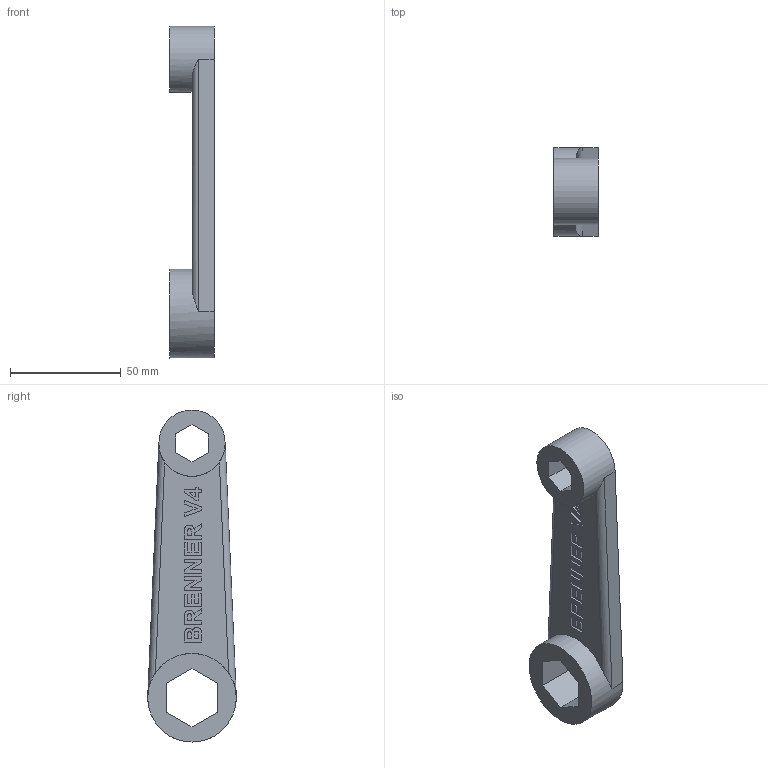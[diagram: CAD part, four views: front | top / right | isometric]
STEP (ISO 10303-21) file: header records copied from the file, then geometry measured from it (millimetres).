
FILE_DESCRIPTION(/* description */ (''),/* implementation_level */ '2;1');
FILE_NAME(/* name */ 'C:/Users/Andrew/Desktop/gear/contra double ended spanner v4.step',/* time_stamp */ '2018-06-03T19:53:47+12:00',/* author */ ('andypalmerKYS6U'),/* organization */ (''),/* preprocessor_version */ 'ST-DEVELOPER v16.13',/* originating_system */ 'Autodesk Translation Framework v6.5.0.72',/* authorisation */ '');
FILE_SCHEMA (('AUTOMOTIVE_DESIGN { 1 0 10303 214 3 1 1 }'));
Length unit declared in the file: millimetre
Products named in the file (1): contra double ended spanner
Bounding box: 20 x 40 x 150 mm (x, y, z)
Volume: 56347 mm3; surface area: 17053.6 mm2
Topology: 1 solids, 1 shells, 188 faces, 516 edges, 344 vertices
Faces by surface type: plane 128, bspline 56, cylinder 4
Full cylindrical faces by diameter (mm): 30 x1, 40 x1
Entity records: 6491 total; most frequent: CARTESIAN_POINT 2051, ORIENTED_EDGE 1032, DIRECTION 674, EDGE_CURVE 516, LINE 392, VECTOR 392, VERTEX_POINT 344, EDGE_LOOP 206
